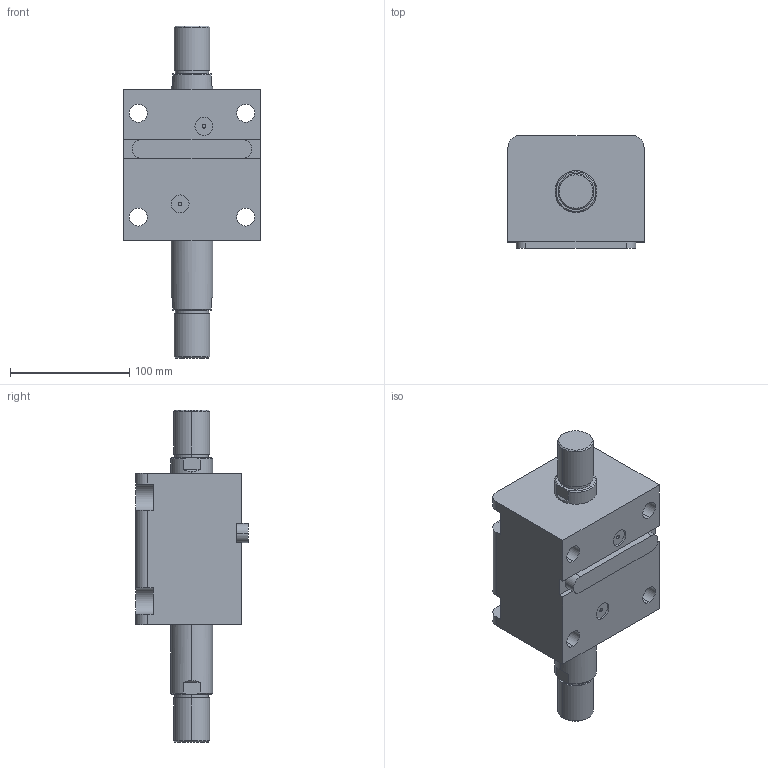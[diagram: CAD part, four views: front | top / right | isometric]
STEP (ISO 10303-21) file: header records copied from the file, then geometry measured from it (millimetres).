
FILE_DESCRIPTION (( 'STEP AP203' ), '1' );
FILE_NAME ('HTB-LWM63-45W.STEP', '2020-12-25T03:47:02', ( '微软用户' ), ( '微软中国' ), 'SwSTEP 2.0', 'SolidWorks 2012', '' );
FILE_SCHEMA (( 'CONFIG_CONTROL_DESIGN' ));
Length unit declared in the file: millimetre
Products named in the file (4): HTB-LWM63-瑩; HTB-LWM63-45W; HTB-LWM63-45掛极; HTB-LWM63-45W活塞杆
Assembly tree (3 placements, depth 2):
  HTB-LWM63-45W
    HTB-LWM63-45掛极
    HTB-LWM63-45W活塞杆
    HTB-LWM63-瑩
Bounding box: 114 x 94.5 x 278 mm (x, y, z)
Volume: 1238336.3 mm3; surface area: 151294.2 mm2
Topology: 3 solids, 3 shells, 113 faces, 273 edges, 178 vertices
Faces by surface type: cylinder 49, plane 48, torus 8, cone 8
Entity records: 3783 total; most frequent: CARTESIAN_POINT 626, DIRECTION 617, ORIENTED_EDGE 546, EDGE_CURVE 273, AXIS2_PLACEMENT_3D 241, VERTEX_POINT 178, EDGE_LOOP 135, LINE 135
